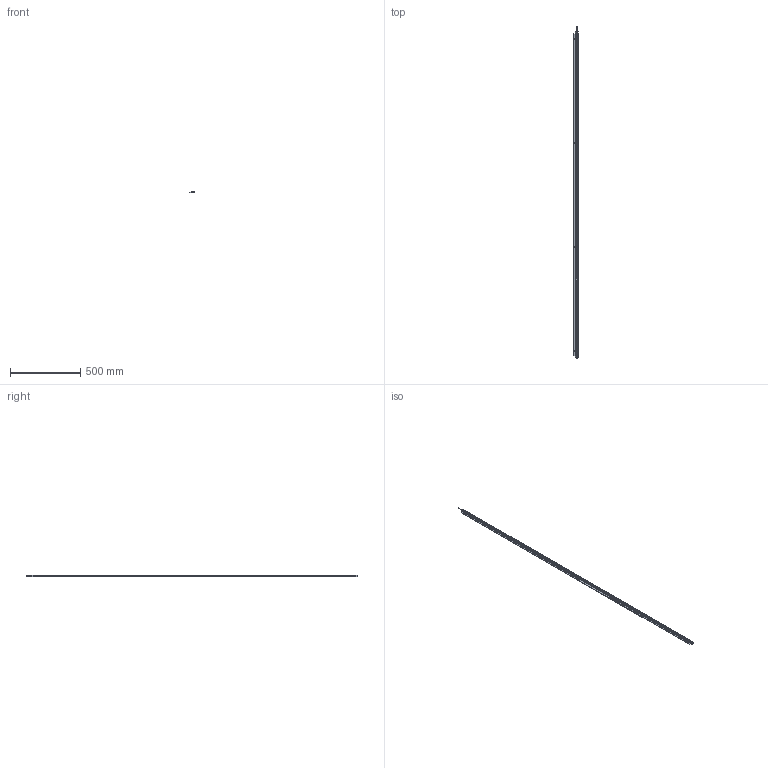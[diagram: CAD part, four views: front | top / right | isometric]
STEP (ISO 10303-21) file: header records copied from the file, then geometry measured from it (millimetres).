
FILE_DESCRIPTION (( 'STEP AP214' ), '1' );
FILE_NAME ('ILGA-L-K1-2320mm.STEP', '2026-04-24T23:08:04', ( '' ), ( '' ), 'SwSTEP 2.0', 'SolidWorks 2025', '' );
FILE_SCHEMA (( 'AUTOMOTIVE_DESIGN' ));
Length unit declared in the file: millimetre
Products named in the file (1): ILGA-L-K1-2320mm
Bounding box: 35 x 2360 x 10.7 mm (x, y, z)
Volume: 240408.8 mm3; surface area: 356996.8 mm2
Topology: 9 solids, 9 shells, 680 faces, 1768 edges, 1080 vertices
Faces by surface type: plane 293, cylinder 245, cone 60, torus 42, bspline 24, sphere 16
Entity records: 28575 total; most frequent: CARTESIAN_POINT 4429, DIRECTION 3606, ORIENTED_EDGE 3448, EDGE_CURVE 1724, AXIS2_PLACEMENT_3D 1345, VERTEX_POINT 1080, LINE 916, VECTOR 916
